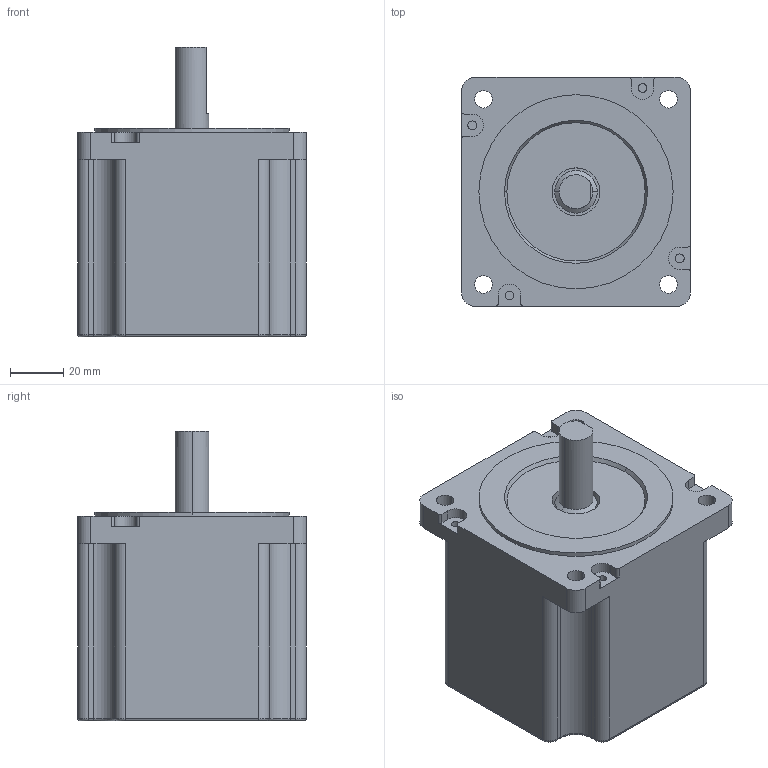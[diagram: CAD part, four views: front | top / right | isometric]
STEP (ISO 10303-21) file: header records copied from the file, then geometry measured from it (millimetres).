
FILE_DESCRIPTION((''),'2;1');
FILE_NAME('ABCD0E94C2B2YBM8_8','2021-11-16T14:06:24',('qingl'),(''),'CREO PARAMETRIC BY PTC INC, 2019224','CREO PARAMETRIC BY PTC INC, 2019224','');
FILE_SCHEMA(('CONFIG_CONTROL_DESIGN'));
Length unit declared in the file: millimetre
Products named in the file (1): ABCD0E94C2B2YBM8_8
Bounding box: 86 x 86 x 109 mm (x, y, z)
Volume: 517493.6 mm3; surface area: 44812.8 mm2
Topology: 1 solids, 2 shells, 286 faces, 779 edges, 511 vertices
Faces by surface type: cylinder 214, plane 48, torus 12, bspline 8, cone 4
Entity records: 14024 total; most frequent: CARTESIAN_POINT 7176, ORIENTED_EDGE 1558, DIRECTION 1224, EDGE_CURVE 779, VERTEX_POINT 511, AXIS2_PLACEMENT_3D 463, EDGE_LOOP 308, VECTOR 298
